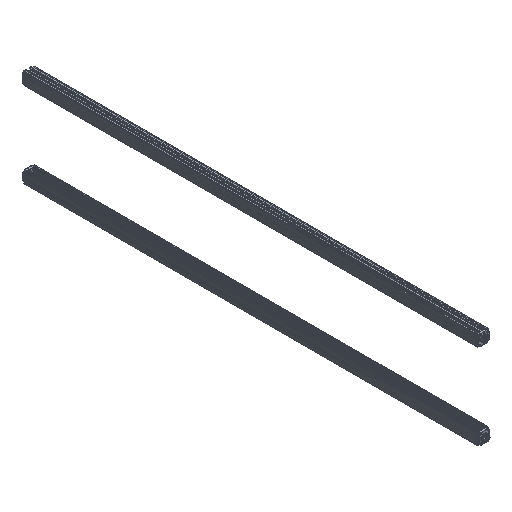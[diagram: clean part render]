
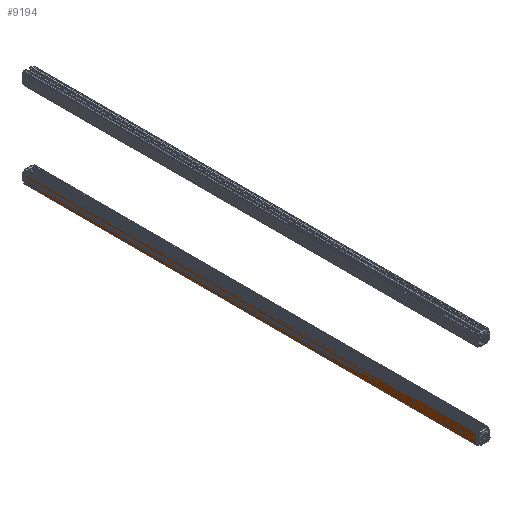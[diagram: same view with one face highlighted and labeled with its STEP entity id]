
A CAD part, isometric view. The second image highlights one B-rep face of the part: STEP entity #9194.
In plain terms, the highlighted planar face has unit normal (-1, 0, -0.009) as drawn and (1, 0, 0) by its records, which use the part's own axes.
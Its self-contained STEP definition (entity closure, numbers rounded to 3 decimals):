
#2229 = VERTEX_POINT ( 'NONE', #8249 ) ;
#2809 = EDGE_CURVE ( 'NONE', #15745, #2988, #7389, .T. ) ;
#2988 = VERTEX_POINT ( 'NONE', #16250 ) ;
#2993 = CARTESIAN_POINT ( 'NONE',  ( 15., 1210., -16.9 ) ) ;
#3055 = AXIS2_PLACEMENT_3D ( 'NONE', #11092, #15447, #9875 ) ;
#3559 = LINE ( 'NONE', #9163, #10280 ) ;
#3810 = CARTESIAN_POINT ( 'NONE',  ( 15., 1210., 10.9 ) ) ;
#4353 = ORIENTED_EDGE ( 'NONE', *, *, #2809, .F. ) ;
#4816 = CARTESIAN_POINT ( 'NONE',  ( 15., 0., -16.693 ) ) ;
#5199 = CARTESIAN_POINT ( 'NONE',  ( 15., 0., -16.9 ) ) ;
#6308 = CARTESIAN_POINT ( 'NONE',  ( 15., 1210., 10.9 ) ) ;
#6690 = VERTEX_POINT ( 'NONE', #4816 ) ;
#6927 = VECTOR ( 'NONE', #12380, 1000. ) ;
#7328 = VECTOR ( 'NONE', #16562, 1000. ) ;
#7353 = EDGE_CURVE ( 'NONE', #6690, #2988, #3559, .T. ) ;
#7389 = LINE ( 'NONE', #2993, #7535 ) ;
#7416 = ORIENTED_EDGE ( 'NONE', *, *, #7353, .T. ) ;
#7535 = VECTOR ( 'NONE', #8679, 1000. ) ;
#7618 = ORIENTED_EDGE ( 'NONE', *, *, #17120, .T. ) ;
#7767 = DIRECTION ( 'NONE',  ( 0., 1., 0. ) ) ;
#8249 = CARTESIAN_POINT ( 'NONE',  ( 15., 0., 10.9 ) ) ;
#8302 = FACE_OUTER_BOUND ( 'NONE', #17813, .T. ) ;
#8679 = DIRECTION ( 'NONE',  ( 0., 0., -1. ) ) ;
#9163 = CARTESIAN_POINT ( 'NONE',  ( 15., 1210., -16.693 ) ) ;
#9194 = ADVANCED_FACE ( 'NONE', ( #8302 ), #11367, .F. ) ;
#9875 = DIRECTION ( 'NONE',  ( 0., 0., 1. ) ) ;
#10280 = VECTOR ( 'NONE', #7767, 1000. ) ;
#11092 = CARTESIAN_POINT ( 'NONE',  ( 15., 1210., -16.9 ) ) ;
#11221 = ORIENTED_EDGE ( 'NONE', *, *, #11241, .T. ) ;
#11241 = EDGE_CURVE ( 'NONE', #2229, #6690, #17942, .T. ) ;
#11367 = PLANE ( 'NONE',  #3055 ) ;
#12380 = DIRECTION ( 'NONE',  ( 0., 0., -1. ) ) ;
#15254 = LINE ( 'NONE', #3810, #7328 ) ;
#15447 = DIRECTION ( 'NONE',  ( -1., 0., 0. ) ) ;
#15745 = VERTEX_POINT ( 'NONE', #6308 ) ;
#16250 = CARTESIAN_POINT ( 'NONE',  ( 15., 1210., -16.693 ) ) ;
#16562 = DIRECTION ( 'NONE',  ( 0., -1., 0. ) ) ;
#17120 = EDGE_CURVE ( 'NONE', #15745, #2229, #15254, .T. ) ;
#17813 = EDGE_LOOP ( 'NONE', ( #11221, #7416, #4353, #7618 ) ) ;
#17942 = LINE ( 'NONE', #5199, #6927 ) ;
